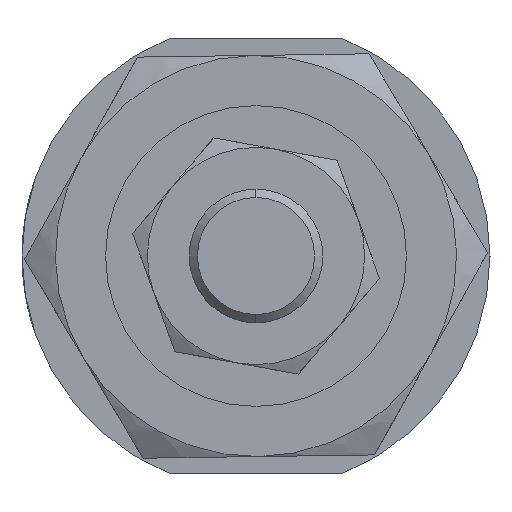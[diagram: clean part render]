
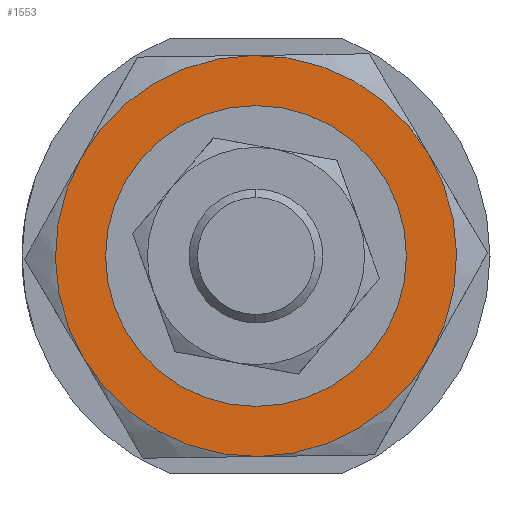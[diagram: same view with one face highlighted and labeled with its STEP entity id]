
A CAD part, left-side view. The second image highlights one B-rep face of the part: STEP entity #1553.
In plain terms, the highlighted planar face has unit normal (-1, 0, 0) as drawn and (0, 0, -1) by its records, which use the part's own axes.
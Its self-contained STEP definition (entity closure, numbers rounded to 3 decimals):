
#59 = ORIENTED_EDGE ( 'NONE', *, *, #2545, .T. ) ;
#131 = ORIENTED_EDGE ( 'NONE', *, *, #2084, .F. ) ;
#204 = VERTEX_POINT ( 'NONE', #1146 ) ;
#241 = DIRECTION ( 'NONE',  ( 0., 0., 1. ) ) ;
#253 = CIRCLE ( 'NONE', #300, 12. ) ;
#300 = AXIS2_PLACEMENT_3D ( 'NONE', #359, #562, #2132 ) ;
#359 = CARTESIAN_POINT ( 'NONE',  ( 0., 0., -4. ) ) ;
#470 = VERTEX_POINT ( 'NONE', #1321 ) ;
#487 = DIRECTION ( 'NONE',  ( 1., 0., 0. ) ) ;
#501 = DIRECTION ( 'NONE',  ( 1., 0., 0. ) ) ;
#517 = ORIENTED_EDGE ( 'NONE', *, *, #1084, .F. ) ;
#562 = DIRECTION ( 'NONE',  ( 0., 0., 1. ) ) ;
#616 = CIRCLE ( 'NONE', #1891, 8.25 ) ;
#651 = VERTEX_POINT ( 'NONE', #835 ) ;
#673 = VERTEX_POINT ( 'NONE', #1334 ) ;
#693 = CARTESIAN_POINT ( 'NONE',  ( 0., 0., -4. ) ) ;
#750 = EDGE_CURVE ( 'NONE', #470, #2818, #1435, .T. ) ;
#835 = CARTESIAN_POINT ( 'NONE',  ( 6., -10.392, -4. ) ) ;
#840 = EDGE_CURVE ( 'NONE', #673, #2843, #1580, .T. ) ;
#877 = ORIENTED_EDGE ( 'NONE', *, *, #840, .F. ) ;
#946 = DIRECTION ( 'NONE',  ( 1., 0., 0. ) ) ;
#970 = ORIENTED_EDGE ( 'NONE', *, *, #750, .T. ) ;
#1016 = CARTESIAN_POINT ( 'NONE',  ( 6., 10.392, -4. ) ) ;
#1084 = EDGE_CURVE ( 'NONE', #1245, #2053, #253, .T. ) ;
#1088 = EDGE_LOOP ( 'NONE', ( #970, #59 ) ) ;
#1140 = DIRECTION ( 'NONE',  ( 0., 0., 1. ) ) ;
#1146 = CARTESIAN_POINT ( 'NONE',  ( -6., -10.392, -4. ) ) ;
#1245 = VERTEX_POINT ( 'NONE', #1248 ) ;
#1248 = CARTESIAN_POINT ( 'NONE',  ( -6., 10.392, -4. ) ) ;
#1279 = AXIS2_PLACEMENT_3D ( 'NONE', #1404, #1666, #1883 ) ;
#1301 = EDGE_LOOP ( 'NONE', ( #877, #131, #2908, #2027, #517, #1642 ) ) ;
#1321 = CARTESIAN_POINT ( 'NONE',  ( 8.25, 0., -4. ) ) ;
#1334 = CARTESIAN_POINT ( 'NONE',  ( 12., 0., -4. ) ) ;
#1385 = CARTESIAN_POINT ( 'NONE',  ( 0., 0., -4. ) ) ;
#1404 = CARTESIAN_POINT ( 'NONE',  ( 0., 0., -4. ) ) ;
#1435 = CIRCLE ( 'NONE', #2324, 8.25 ) ;
#1470 = CIRCLE ( 'NONE', #1279, 12. ) ;
#1553 = ADVANCED_FACE ( 'NONE', ( #2846, #1979 ), #2037, .F. ) ;
#1572 = CARTESIAN_POINT ( 'NONE',  ( -12., 0., -4. ) ) ;
#1580 = CIRCLE ( 'NONE', #1856, 12. ) ;
#1642 = ORIENTED_EDGE ( 'NONE', *, *, #2218, .F. ) ;
#1666 = DIRECTION ( 'NONE',  ( 0., 0., 1. ) ) ;
#1733 = CIRCLE ( 'NONE', #1993, 12. ) ;
#1763 = DIRECTION ( 'NONE',  ( 0., 0., 1. ) ) ;
#1821 = DIRECTION ( 'NONE',  ( 1., 0., 0. ) ) ;
#1824 = DIRECTION ( 'NONE',  ( 0., 0., 1. ) ) ;
#1830 = CARTESIAN_POINT ( 'NONE',  ( 0., 0., -4. ) ) ;
#1856 = AXIS2_PLACEMENT_3D ( 'NONE', #1385, #2785, #2350 ) ;
#1883 = DIRECTION ( 'NONE',  ( 1., 0., 0. ) ) ;
#1891 = AXIS2_PLACEMENT_3D ( 'NONE', #1830, #241, #1821 ) ;
#1979 = FACE_OUTER_BOUND ( 'NONE', #1301, .T. ) ;
#1993 = AXIS2_PLACEMENT_3D ( 'NONE', #693, #1824, #2074 ) ;
#2027 = ORIENTED_EDGE ( 'NONE', *, *, #2608, .F. ) ;
#2037 = PLANE ( 'NONE',  #2714 ) ;
#2045 = CARTESIAN_POINT ( 'NONE',  ( 0., 0., -4. ) ) ;
#2053 = VERTEX_POINT ( 'NONE', #1572 ) ;
#2074 = DIRECTION ( 'NONE',  ( 1., 0., 0. ) ) ;
#2084 = EDGE_CURVE ( 'NONE', #651, #673, #2544, .T. ) ;
#2117 = DIRECTION ( 'NONE',  ( 0., 0., 1. ) ) ;
#2132 = DIRECTION ( 'NONE',  ( 1., 0., 0. ) ) ;
#2146 = CARTESIAN_POINT ( 'NONE',  ( -8.25, 0., -4. ) ) ;
#2197 = AXIS2_PLACEMENT_3D ( 'NONE', #2512, #2294, #501 ) ;
#2218 = EDGE_CURVE ( 'NONE', #2843, #1245, #1470, .T. ) ;
#2261 = CARTESIAN_POINT ( 'NONE',  ( 0., 0., -4. ) ) ;
#2294 = DIRECTION ( 'NONE',  ( 0., 0., 1. ) ) ;
#2324 = AXIS2_PLACEMENT_3D ( 'NONE', #2727, #2117, #2502 ) ;
#2350 = DIRECTION ( 'NONE',  ( 1., 0., 0. ) ) ;
#2386 = AXIS2_PLACEMENT_3D ( 'NONE', #2045, #1140, #487 ) ;
#2502 = DIRECTION ( 'NONE',  ( 1., 0., 0. ) ) ;
#2512 = CARTESIAN_POINT ( 'NONE',  ( 0., 0., -4. ) ) ;
#2544 = CIRCLE ( 'NONE', #2197, 12. ) ;
#2545 = EDGE_CURVE ( 'NONE', #2818, #470, #616, .T. ) ;
#2558 = EDGE_CURVE ( 'NONE', #204, #651, #1733, .T. ) ;
#2608 = EDGE_CURVE ( 'NONE', #2053, #204, #2895, .T. ) ;
#2714 = AXIS2_PLACEMENT_3D ( 'NONE', #2261, #1763, #946 ) ;
#2727 = CARTESIAN_POINT ( 'NONE',  ( 0., 0., -4. ) ) ;
#2785 = DIRECTION ( 'NONE',  ( 0., 0., 1. ) ) ;
#2818 = VERTEX_POINT ( 'NONE', #2146 ) ;
#2843 = VERTEX_POINT ( 'NONE', #1016 ) ;
#2846 = FACE_BOUND ( 'NONE', #1088, .T. ) ;
#2895 = CIRCLE ( 'NONE', #2386, 12. ) ;
#2908 = ORIENTED_EDGE ( 'NONE', *, *, #2558, .F. ) ;
